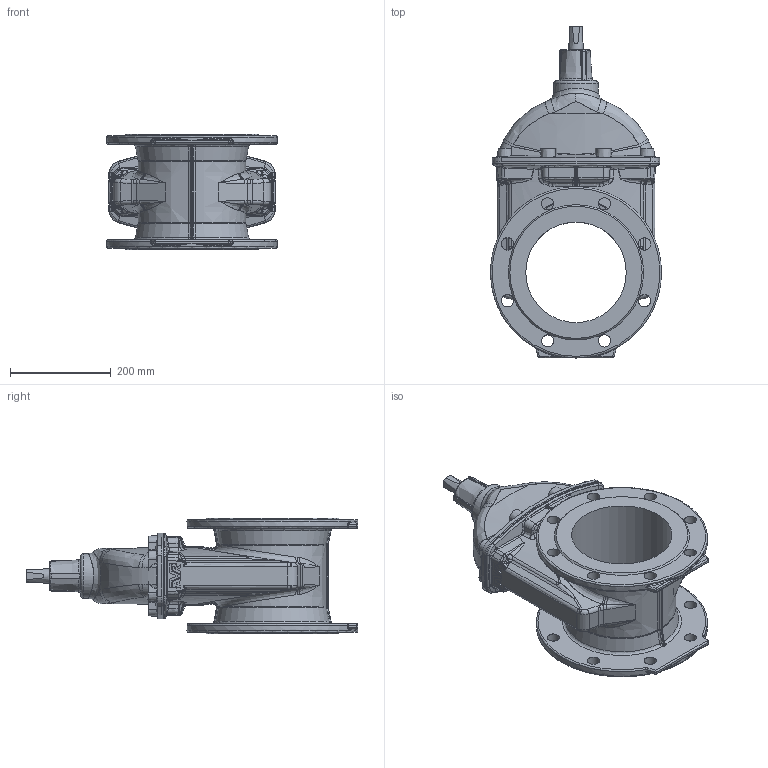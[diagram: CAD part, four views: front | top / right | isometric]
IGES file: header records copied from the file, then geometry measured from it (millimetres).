
Start section: SolidWorks IGES file using analytic representation for surfaces
Global section: file name: \\avksan2\techshare\PBM outline export from Enovia\O_06_30_DN200_X0XXX99_REV01.igs; native system: SolidWorks 2019; preprocessor: SolidWorks 2019; author: pbm; date: 211220.100556; units: millimetre
Bounding box: 340 x 660.06 x 230 mm (x, y, z)
Surface area: 801389.9 mm2 (no closed solid volume)
Topology: 0 solids, 0 shells, 971 faces, 5058 edges, 4994 vertices
Faces by surface type: bspline 537, revolution 434
